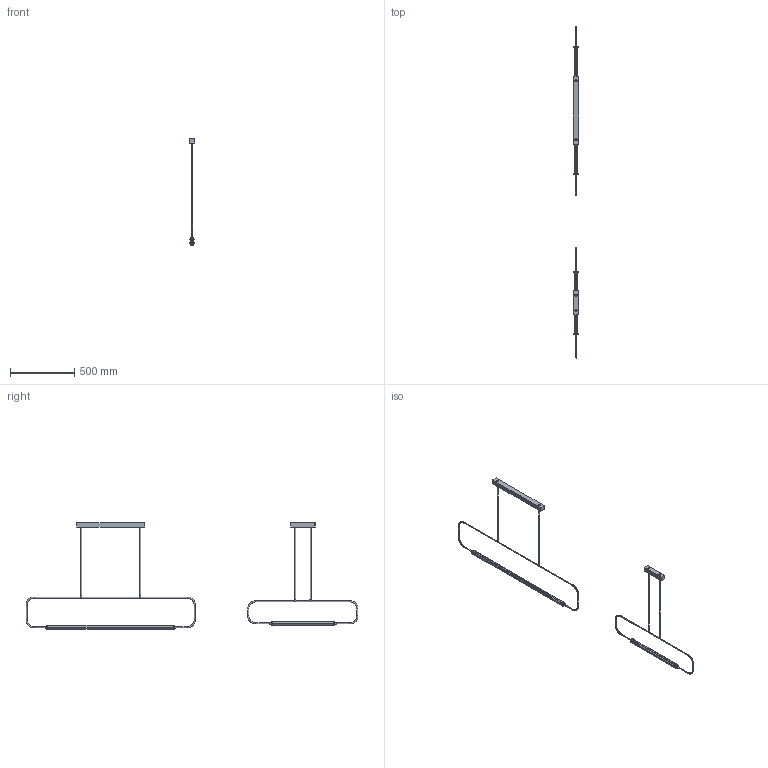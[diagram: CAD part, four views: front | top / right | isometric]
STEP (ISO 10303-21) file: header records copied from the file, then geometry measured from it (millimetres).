
FILE_DESCRIPTION(/* description */ (''),/* implementation_level */ '2;1');
FILE_NAME(/* name */ 'ASM NEW ICE SOSPENSIONE_GRANDE+PICCOLO DIFFONDENTE.step',/* time_stamp */ '2023-03-17T01:01:17+01:00',/* author */ (''),/* organization */ (''),/* preprocessor_version */ 'ST-DEVELOPER v19.2',/* originating_system */ 'Autodesk Translation Framework v11.17.0.187',/* authorisation */ '');
FILE_SCHEMA (('AUTOMOTIVE_DESIGN { 1 0 10303 214 3 1 1 }'));
Length unit declared in the file: millimetre
Products named in the file (22): ASM NEW ICE SOSPENSIONE; SOSPENSIONE GRANDE; MODULO GRANDE; RACCORDO SOSPENSIONE; TUBOLARE GRANDE; BARRA DIFF. GRANDE; Vetro 500; Tubo Interno Diffondente; Testata Tornita; Fissaggio Interno; TIGE SOSP GRANDE; SOSPENSIONE PICCOLA; SACLA; TIGE SOSP. PICCOLO; MODULO PICCOLO; TUBOLARE PICCOLO; BARRA DIFF. PICCOLO; Vetro 500_1; Tubo Interno Diffondente_1; Fissaggio Interno_1; Testata Tornita_1; RACCORDO SOSPENSIONE_1
Assembly tree (32 placements, depth 5):
  ASM NEW ICE SOSPENSIONE
    SOSPENSIONE GRANDE
      SACLA  x2
      MODULO GRANDE
        RACCORDO SOSPENSIONE  x2
        TUBOLARE GRANDE
        BARRA DIFF. GRANDE
          Vetro 500
          Testata Tornita  x2
          Tubo Interno Diffondente
          Fissaggio Interno  x2
      TIGE SOSP GRANDE  x2
    SOSPENSIONE PICCOLA
      TIGE SOSP. PICCOLO  x2
      SACLA  x2
      MODULO PICCOLO
        TUBOLARE PICCOLO
        BARRA DIFF. PICCOLO
          Vetro 500_1
          Testata Tornita_1  x2
          Tubo Interno Diffondente_1
          Fissaggio Interno_1  x2
        RACCORDO SOSPENSIONE_1  x2
Bounding box: 40 x 2590 x 832 mm (x, y, z)
Volume: 1934638 mm3; surface area: 737282.2 mm2
Topology: 28 solids, 28 shells, 226 faces, 422 edges, 268 vertices
Faces by surface type: cylinder 114, plane 76, bspline 24, sphere 8, cone 4
Full cylindrical faces by diameter (mm): 5 x10, 7.035 x8, 8 x18, 9 x4, 10 x4, 12 x4, 14.5 x4, 15 x2, 16 x4, 18 x4, 18.5 x4, 32 x4
Entity records: 6349 total; most frequent: CARTESIAN_POINT 2050, DIRECTION 910, ORIENTED_EDGE 660, AXIS2_PLACEMENT_3D 396, EDGE_CURVE 330, VERTEX_POINT 204, EDGE_LOOP 202, CIRCLE 194
